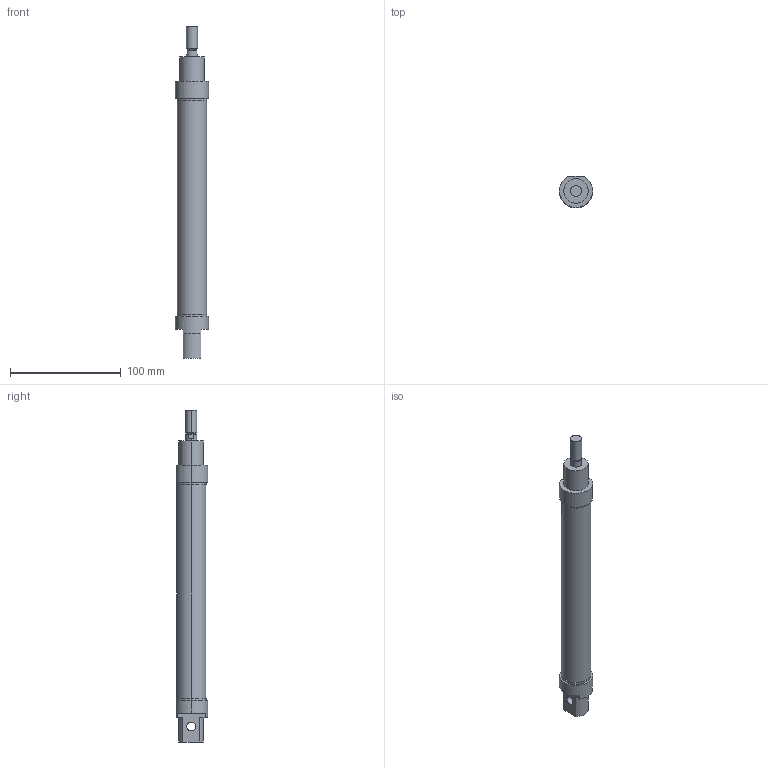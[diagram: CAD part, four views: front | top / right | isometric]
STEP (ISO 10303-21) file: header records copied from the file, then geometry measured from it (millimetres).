
FILE_DESCRIPTION (( 'STEP AP203' ), '1' );
FILE_NAME ('hmp-25-160-Airtec.step', '2025-07-24T13:41:19', ( '' ), ( '' ), 'SwSTEP 2.0', 'SolidWorks 2014', '' );
FILE_SCHEMA (( 'CONFIG_CONTROL_DESIGN' ));
Length unit declared in the file: millimetre
Products named in the file (5): 02-hm-025-01-50-airtec; cylinder-hmp-25-Airtec_cylinder-hmp-25-airtec; hmp-25-160-Airtec; rod-hmp-25-Airtec_rod-hmp-25-airtec; 02-hm-025-02-50-airtec
Assembly tree (4 placements, depth 2):
  hmp-25-160-Airtec
    cylinder-hmp-25-Airtec_cylinder-hmp-25-airtec
    rod-hmp-25-Airtec_rod-hmp-25-airtec
    02-hm-025-02-50-airtec
    02-hm-025-01-50-airtec
Bounding box: 30 x 28.5 x 300 mm (x, y, z)
Volume: 142465.4 mm3; surface area: 40995.9 mm2
Topology: 4 solids, 4 shells, 59 faces, 140 edges, 92 vertices
Faces by surface type: cylinder 30, plane 25, cone 4
Entity records: 2287 total; most frequent: DIRECTION 346, CARTESIAN_POINT 316, ORIENTED_EDGE 280, AXIS2_PLACEMENT_3D 142, EDGE_CURVE 140, VERTEX_POINT 92, CIRCLE 76, EDGE_LOOP 68
